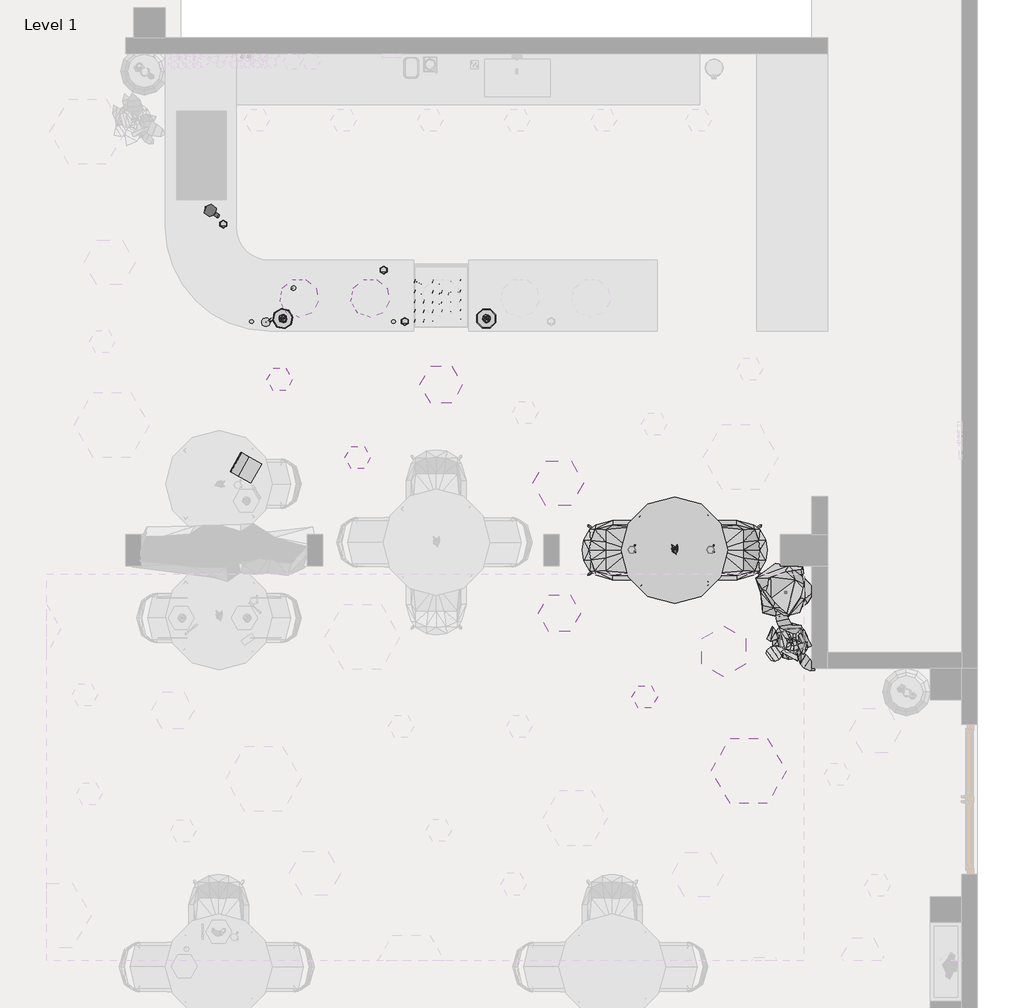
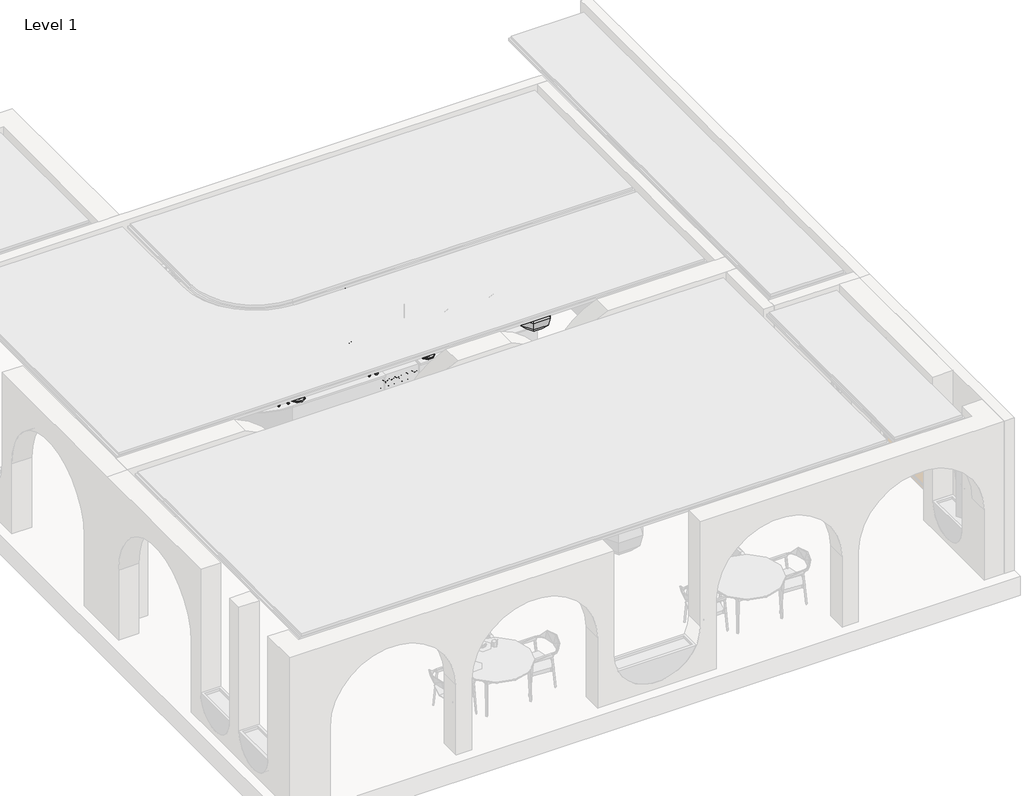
# One storey, part 4 of 5: 107 geographic elements.
"""IFC4 building model written with IfcOpenShell, lengths in millimetres."""

from ifc_helpers import new_model, si_unit, origin, place, context, project, spatial, transform, mapped, element, save
from components import geographic_element_8ca766f1, geographic_element_748f541f, geographic_element_da99fc47, geographic_element_7c99d2c4, geographic_element_02b0aeb2, geographic_element_ad5755f3, geographic_element_e5fee6ec, geographic_element_8a26e685, enscape_assetdefinition_armchair_052_outdoor_enscape_f294b56b, enscape_assetdefinition_armchair_052_outdoor_enscape_d5c26a59, enscape_assetdefinition_basket_004_enscape_assetdefinition_14d161dd, enscape_assetdefinition_cup_002_coffee_enscape_aa947409, enscape_assetdefinition_cup_004_espresso_enscape_9e3265cb, enscape_assetdefinition_cup_009_paper_big_enscape_90dbc6f4, enscape_assetdefinition_floor_lamp_016_enscape_4e544922, enscape_assetdefinition_floor_lamp_016_enscape_5eb83b77, enscape_assetdefinition_floor_lamp_016_enscape_559c5179, enscape_assetdefinition_floor_lamp_016_enscape_838fbf4e, enscape_assetdefinition_glas_010_cocktail_enscape_a5b9dfca, enscape_assetdefinition_glass_002_cocktail_enscape_3d217cfa, enscape_assetdefinition_pendant_lamp_001_enscape_e6839370, enscape_assetdefinition_plate_006_enscape_assetdefinition_0bcb7aa0, enscape_assetdefinition_tablet_006_enscape_assetdefinition_a1b86c75, enscape_assetdefinition_vase_048_paper_palm_enscape_02403a3f

model = new_model("IFC4")

# Units and contexts
model_context = context("Model", 3, world=origin())
ifc_project = project(units=[si_unit("LENGTHUNIT", "METRE", prefix="MILLI")], contexts=[model_context])

# Site, building, storey
site = spatial("IfcSite", under=ifc_project)
building = spatial("IfcBuilding", under=site)
storey = spatial("IfcBuildingStorey", under=building, Name="Level 1", Elevation=0.0)

# Geographic elements
placement = place(None, origin())
geographic_element_shape = geographic_element_8ca766f1(model_context)
element("IfcGeographicElement", 1, ObjectType="Enscape AssetDefinition - Food 027 Pastry : Enscape AssetDefinition - Food 027 Pastry", at=placement, inside=storey, context=model_context, shape_type="MappedRepresentation", body=[
    mapped(geographic_element_shape, transform((18942.6576528, 5907.431033, 793.9806418), x_axis=(-1.0, 0.0, 0.0), y_axis=(0.0, -0.982281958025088, -0.18740905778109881), z_axis=(0.0, -0.18740905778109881, 0.982281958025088))),
])
element("IfcGeographicElement", 2, ObjectType="Enscape AssetDefinition - Food 027 Pastry : Enscape AssetDefinition - Food 027 Pastry", at=placement, inside=storey, context=model_context, shape_type="MappedRepresentation", body=[
    mapped(geographic_element_shape, transform((19057.6576528, 5907.431033, 793.9806418), x_axis=(-1.0, 0.0, 0.0), y_axis=(0.0, -0.982281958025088, -0.18740905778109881), z_axis=(0.0, -0.18740905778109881, 0.982281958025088))),
])
element("IfcGeographicElement", 3, ObjectType="Enscape AssetDefinition - Food 027 Pastry : Enscape AssetDefinition - Food 027 Pastry", at=placement, inside=storey, context=model_context, shape_type="MappedRepresentation", body=[
    mapped(geographic_element_shape, transform((19172.6576528, 5907.431033, 793.9806418), x_axis=(-1.0, 0.0, 0.0), y_axis=(0.0, -0.982281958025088, -0.18740905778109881), z_axis=(0.0, -0.18740905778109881, 0.982281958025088))),
])
element("IfcGeographicElement", 4, ObjectType="Enscape AssetDefinition - Food 027 Pastry : Enscape AssetDefinition - Food 027 Pastry", at=placement, inside=storey, context=model_context, shape_type="MappedRepresentation", body=[
    mapped(geographic_element_shape, transform((19287.6576528, 5907.431033, 793.9806418), x_axis=(-1.0, 0.0, 0.0), y_axis=(0.0, -0.982281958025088, -0.18740905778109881), z_axis=(0.0, -0.18740905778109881, 0.982281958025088))),
])
element("IfcGeographicElement", 5, ObjectType="Enscape AssetDefinition - Food 027 Pastry : Enscape AssetDefinition - Food 027 Pastry", at=placement, inside=storey, context=model_context, shape_type="MappedRepresentation", body=[
    mapped(geographic_element_shape, transform((19402.6576528, 5907.431033, 793.9806418), x_axis=(-1.0, 0.0, 0.0), y_axis=(0.0, -0.982281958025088, -0.18740905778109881), z_axis=(0.0, -0.18740905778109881, 0.982281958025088))),
])
element("IfcGeographicElement", 6, ObjectType="Enscape AssetDefinition - Food 027 Pastry : Enscape AssetDefinition - Food 027 Pastry", at=placement, inside=storey, context=model_context, shape_type="MappedRepresentation", body=[
    mapped(geographic_element_shape, transform((19517.6576528, 5907.431033, 793.9806418), x_axis=(-1.0, 0.0, 0.0), y_axis=(0.0, -0.982281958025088, -0.18740905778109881), z_axis=(0.0, -0.18740905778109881, 0.982281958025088))),
])
element("IfcGeographicElement", 7, ObjectType="Enscape AssetDefinition - Food 027 Pastry : Enscape AssetDefinition - Food 027 Pastry", at=placement, inside=storey, context=model_context, shape_type="MappedRepresentation", body=[
    mapped(geographic_element_shape, transform((18942.6576528, 6030.8722582, 817.5319282), x_axis=(-1.0, 0.0, 0.0), y_axis=(0.0, -0.982281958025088, -0.18740905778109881), z_axis=(0.0, -0.18740905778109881, 0.982281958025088))),
])
element("IfcGeographicElement", 8, ObjectType="Enscape AssetDefinition - Food 027 Pastry : Enscape AssetDefinition - Food 027 Pastry", at=placement, inside=storey, context=model_context, shape_type="MappedRepresentation", body=[
    mapped(geographic_element_shape, transform((18942.6576528, 6152.0675491, 840.654714), x_axis=(-1.0, 0.0, 0.0), y_axis=(0.0, -0.982281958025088, -0.18740905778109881), z_axis=(0.0, -0.18740905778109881, 0.982281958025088))),
])
element("IfcGeographicElement", 9, ObjectType="Enscape AssetDefinition - Food 027 Pastry : Enscape AssetDefinition - Food 027 Pastry", at=placement, inside=storey, context=model_context, shape_type="MappedRepresentation", body=[
    mapped(geographic_element_shape, transform((18942.6576528, 6278.0676886, 864.6942143), x_axis=(-1.0, 0.0, 0.0), y_axis=(0.0, -0.982281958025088, -0.18740905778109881), z_axis=(0.0, -0.18740905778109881, 0.982281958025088))),
])
element("IfcGeographicElement", 10, ObjectType="Enscape AssetDefinition - Food 027 Pastry : Enscape AssetDefinition - Food 027 Pastry", at=placement, inside=storey, context=model_context, shape_type="MappedRepresentation", body=[
    mapped(geographic_element_shape, transform((18942.6576528, 6409.383193, 889.7478303), x_axis=(-1.0, 0.0, 0.0), y_axis=(0.0, -0.982281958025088, -0.18740905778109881), z_axis=(0.0, -0.18740905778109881, 0.982281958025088))),
])
element("IfcGeographicElement", 11, ObjectType="Enscape AssetDefinition - Food 027 Pastry : Enscape AssetDefinition - Food 027 Pastry", at=placement, inside=storey, context=model_context, shape_type="MappedRepresentation", body=[
    mapped(geographic_element_shape, transform((19057.6576528, 6030.8722582, 817.5319282), x_axis=(-1.0, 0.0, 0.0), y_axis=(0.0, -0.982281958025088, -0.18740905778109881), z_axis=(0.0, -0.18740905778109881, 0.982281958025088))),
])
element("IfcGeographicElement", 12, ObjectType="Enscape AssetDefinition - Food 027 Pastry : Enscape AssetDefinition - Food 027 Pastry", at=placement, inside=storey, context=model_context, shape_type="MappedRepresentation", body=[
    mapped(geographic_element_shape, transform((19057.6576528, 6152.0675491, 840.654714), x_axis=(-1.0, 0.0, 0.0), y_axis=(0.0, -0.982281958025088, -0.18740905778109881), z_axis=(0.0, -0.18740905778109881, 0.982281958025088))),
])
element("IfcGeographicElement", 13, ObjectType="Enscape AssetDefinition - Food 027 Pastry : Enscape AssetDefinition - Food 027 Pastry", at=placement, inside=storey, context=model_context, shape_type="MappedRepresentation", body=[
    mapped(geographic_element_shape, transform((19172.6576528, 6030.8722582, 817.5319282), x_axis=(-1.0, 0.0, 0.0), y_axis=(0.0, -0.982281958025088, -0.18740905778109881), z_axis=(0.0, -0.18740905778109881, 0.982281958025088))),
])
element("IfcGeographicElement", 14, ObjectType="Enscape AssetDefinition - Food 027 Pastry : Enscape AssetDefinition - Food 027 Pastry", at=placement, inside=storey, context=model_context, shape_type="MappedRepresentation", body=[
    mapped(geographic_element_shape, transform((19172.6576528, 6152.0675491, 840.654714), x_axis=(-1.0, 0.0, 0.0), y_axis=(0.0, -0.982281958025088, -0.18740905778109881), z_axis=(0.0, -0.18740905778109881, 0.982281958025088))),
])
element("IfcGeographicElement", 15, ObjectType="Enscape AssetDefinition - Food 027 Pastry : Enscape AssetDefinition - Food 027 Pastry", at=placement, inside=storey, context=model_context, shape_type="MappedRepresentation", body=[
    mapped(geographic_element_shape, transform((19172.6576528, 6278.0676886, 864.6942143), x_axis=(-1.0, 0.0, 0.0), y_axis=(0.0, -0.982281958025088, -0.18740905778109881), z_axis=(0.0, -0.18740905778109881, 0.982281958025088))),
])
element("IfcGeographicElement", 16, ObjectType="Enscape AssetDefinition - Food 027 Pastry : Enscape AssetDefinition - Food 027 Pastry", at=placement, inside=storey, context=model_context, shape_type="MappedRepresentation", body=[
    mapped(geographic_element_shape, transform((19172.6576528, 6409.383193, 889.7478303), x_axis=(-1.0, 0.0, 0.0), y_axis=(0.0, -0.982281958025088, -0.18740905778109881), z_axis=(0.0, -0.18740905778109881, 0.982281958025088))),
])
element("IfcGeographicElement", 17, ObjectType="Enscape AssetDefinition - Food 027 Pastry : Enscape AssetDefinition - Food 027 Pastry", at=placement, inside=storey, context=model_context, shape_type="MappedRepresentation", body=[
    mapped(geographic_element_shape, transform((19287.6576528, 6030.8722582, 817.5319282), x_axis=(-1.0, 0.0, 0.0), y_axis=(0.0, -0.982281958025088, -0.18740905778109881), z_axis=(0.0, -0.18740905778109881, 0.982281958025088))),
])
element("IfcGeographicElement", 18, ObjectType="Enscape AssetDefinition - Food 027 Pastry : Enscape AssetDefinition - Food 027 Pastry", at=placement, inside=storey, context=model_context, shape_type="MappedRepresentation", body=[
    mapped(geographic_element_shape, transform((19287.6576528, 6152.0675491, 840.654714), x_axis=(-1.0, 0.0, 0.0), y_axis=(0.0, -0.982281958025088, -0.18740905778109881), z_axis=(0.0, -0.18740905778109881, 0.982281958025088))),
])
element("IfcGeographicElement", 19, ObjectType="Enscape AssetDefinition - Food 027 Pastry : Enscape AssetDefinition - Food 027 Pastry", at=placement, inside=storey, context=model_context, shape_type="MappedRepresentation", body=[
    mapped(geographic_element_shape, transform((19287.6576528, 6278.0676886, 864.6942143), x_axis=(-1.0, 0.0, 0.0), y_axis=(0.0, -0.982281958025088, -0.18740905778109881), z_axis=(0.0, -0.18740905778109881, 0.982281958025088))),
])
element("IfcGeographicElement", 20, ObjectType="Enscape AssetDefinition - Food 027 Pastry : Enscape AssetDefinition - Food 027 Pastry", at=placement, inside=storey, context=model_context, shape_type="MappedRepresentation", body=[
    mapped(geographic_element_shape, transform((19402.6576528, 6030.8722582, 817.5319282), x_axis=(-1.0, 0.0, 0.0), y_axis=(0.0, -0.982281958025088, -0.18740905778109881), z_axis=(0.0, -0.18740905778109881, 0.982281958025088))),
])
element("IfcGeographicElement", 21, ObjectType="Enscape AssetDefinition - Food 027 Pastry : Enscape AssetDefinition - Food 027 Pastry", at=placement, inside=storey, context=model_context, shape_type="MappedRepresentation", body=[
    mapped(geographic_element_shape, transform((19402.6576528, 6152.0675491, 840.654714), x_axis=(-1.0, 0.0, 0.0), y_axis=(0.0, -0.982281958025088, -0.18740905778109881), z_axis=(0.0, -0.18740905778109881, 0.982281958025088))),
])
element("IfcGeographicElement", 22, ObjectType="Enscape AssetDefinition - Food 027 Pastry : Enscape AssetDefinition - Food 027 Pastry", at=placement, inside=storey, context=model_context, shape_type="MappedRepresentation", body=[
    mapped(geographic_element_shape, transform((19402.6576528, 6278.0676886, 864.6942143), x_axis=(-1.0, 0.0, 0.0), y_axis=(0.0, -0.982281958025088, -0.18740905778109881), z_axis=(0.0, -0.18740905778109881, 0.982281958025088))),
])
element("IfcGeographicElement", 23, ObjectType="Enscape AssetDefinition - Food 027 Pastry : Enscape AssetDefinition - Food 027 Pastry", at=placement, inside=storey, context=model_context, shape_type="MappedRepresentation", body=[
    mapped(geographic_element_shape, transform((19402.6576528, 6409.383193, 889.7478303), x_axis=(-1.0, 0.0, 0.0), y_axis=(0.0, -0.982281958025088, -0.18740905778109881), z_axis=(0.0, -0.18740905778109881, 0.982281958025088))),
])
element("IfcGeographicElement", 24, ObjectType="Enscape AssetDefinition - Food 027 Pastry : Enscape AssetDefinition - Food 027 Pastry", at=placement, inside=storey, context=model_context, shape_type="MappedRepresentation", body=[
    mapped(geographic_element_shape, transform((19517.6576528, 6030.8722582, 817.5319282), x_axis=(-1.0, 0.0, 0.0), y_axis=(0.0, -0.982281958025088, -0.18740905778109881), z_axis=(0.0, -0.18740905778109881, 0.982281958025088))),
])
element("IfcGeographicElement", 25, ObjectType="Enscape AssetDefinition - Food 027 Pastry : Enscape AssetDefinition - Food 027 Pastry", at=placement, inside=storey, context=model_context, shape_type="MappedRepresentation", body=[
    mapped(geographic_element_shape, transform((19517.6576528, 6152.0675491, 840.654714), x_axis=(-1.0, 0.0, 0.0), y_axis=(0.0, -0.982281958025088, -0.18740905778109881), z_axis=(0.0, -0.18740905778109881, 0.982281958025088))),
])
element("IfcGeographicElement", 26, ObjectType="Enscape AssetDefinition - Food 027 Pastry : Enscape AssetDefinition - Food 027 Pastry", at=placement, inside=storey, context=model_context, shape_type="MappedRepresentation", body=[
    mapped(geographic_element_shape, transform((19517.6576528, 6278.0676886, 864.6942143), x_axis=(-1.0, 0.0, 0.0), y_axis=(0.0, -0.982281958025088, -0.18740905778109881), z_axis=(0.0, -0.18740905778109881, 0.982281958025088))),
])
element("IfcGeographicElement", 27, ObjectType="Enscape AssetDefinition - Food 027 Pastry : Enscape AssetDefinition - Food 027 Pastry", at=placement, inside=storey, context=model_context, shape_type="MappedRepresentation", body=[
    mapped(geographic_element_shape, transform((19517.6576528, 6409.383193, 889.7478303), x_axis=(-1.0, 0.0, 0.0), y_axis=(0.0, -0.982281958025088, -0.18740905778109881), z_axis=(0.0, -0.18740905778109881, 0.982281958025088))),
])
element("IfcGeographicElement", 28, ObjectType="Enscape AssetDefinition - Food 027 Pastry : Enscape AssetDefinition - Food 027 Pastry", at=placement, inside=storey, context=model_context, shape_type="MappedRepresentation", body=[
    mapped(geographic_element_shape, transform((19808.0052196, 5948.148398, 992.5), x_axis=(1.0, 0.0, 0.0), y_axis=(0.0, 1.0, 0.0), z_axis=(0.0, 0.0, 1.0))),
])
element("IfcGeographicElement", 29, ObjectType="Enscape AssetDefinition - Food 027 Pastry : Enscape AssetDefinition - Food 027 Pastry", at=placement, inside=storey, context=model_context, shape_type="MappedRepresentation", body=[
    mapped(geographic_element_shape, transform((17227.9957013, 5948.1805311, 992.5), x_axis=(0.8386705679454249, 0.5446390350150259, 0.0), y_axis=(-0.5446390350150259, 0.8386705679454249, 0.0), z_axis=(0.0, 0.0, 1.0))),
])
geographic_element_2_shape = geographic_element_748f541f(model_context)
element("IfcGeographicElement", 30, ObjectType="Enscape AssetDefinition - Food 024 Pastry : Enscape AssetDefinition - Food 024 Pastry", at=placement, inside=storey, context=model_context, shape_type="MappedRepresentation", body=[
    mapped(geographic_element_2_shape, transform((18976.44141, 5913.2536582, 650.0915374), x_axis=(-1.0, 0.0, 0.0), y_axis=(0.0, -0.982281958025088, -0.1874090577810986), z_axis=(0.0, -0.1874090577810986, 0.982281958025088))),
])
element("IfcGeographicElement", 31, ObjectType="Enscape AssetDefinition - Food 024 Pastry : Enscape AssetDefinition - Food 024 Pastry", at=placement, inside=storey, context=model_context, shape_type="MappedRepresentation", body=[
    mapped(geographic_element_2_shape, transform((19148.94141, 5913.2536582, 650.0915374), x_axis=(-1.0, 0.0, 0.0), y_axis=(0.0, -0.982281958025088, -0.1874090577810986), z_axis=(0.0, -0.1874090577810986, 0.982281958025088))),
])
element("IfcGeographicElement", 32, ObjectType="Enscape AssetDefinition - Food 024 Pastry : Enscape AssetDefinition - Food 024 Pastry", at=placement, inside=storey, context=model_context, shape_type="MappedRepresentation", body=[
    mapped(geographic_element_2_shape, transform((19323.94141, 5913.2536582, 650.0915374), x_axis=(-1.0, 0.0, 0.0), y_axis=(0.0, -0.982281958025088, -0.1874090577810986), z_axis=(0.0, -0.1874090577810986, 0.982281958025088))),
])
element("IfcGeographicElement", 33, ObjectType="Enscape AssetDefinition - Food 024 Pastry : Enscape AssetDefinition - Food 024 Pastry", at=placement, inside=storey, context=model_context, shape_type="MappedRepresentation", body=[
    mapped(geographic_element_2_shape, transform((19498.94141, 5913.2536582, 650.0915374), x_axis=(-1.0, 0.0, 0.0), y_axis=(0.0, -0.982281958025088, -0.1874090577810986), z_axis=(0.0, -0.1874090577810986, 0.982281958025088))),
])
element("IfcGeographicElement", 34, ObjectType="Enscape AssetDefinition - Food 024 Pastry : Enscape AssetDefinition - Food 024 Pastry", at=placement, inside=storey, context=model_context, shape_type="MappedRepresentation", body=[
    mapped(geographic_element_2_shape, transform((18975.0818232, 6068.7677812, 679.7619951), x_axis=(-1.0, 0.0, 0.0), y_axis=(0.0, -0.982281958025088, -0.1874090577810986), z_axis=(0.0, -0.1874090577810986, 0.982281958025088))),
])
element("IfcGeographicElement", 35, ObjectType="Enscape AssetDefinition - Food 024 Pastry : Enscape AssetDefinition - Food 024 Pastry", at=placement, inside=storey, context=model_context, shape_type="MappedRepresentation", body=[
    mapped(geographic_element_2_shape, transform((18970.4284807, 6213.2653472, 707.3306097), x_axis=(-1.0, 0.0, 0.0), y_axis=(0.0, -0.982281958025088, -0.1874090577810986), z_axis=(0.0, -0.1874090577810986, 0.982281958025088))),
])
element("IfcGeographicElement", 36, ObjectType="Enscape AssetDefinition - Food 024 Pastry : Enscape AssetDefinition - Food 024 Pastry", at=placement, inside=storey, context=model_context, shape_type="MappedRepresentation", body=[
    mapped(geographic_element_2_shape, transform((19150.0818232, 6068.7677812, 679.7619951), x_axis=(-1.0, 0.0, 0.0), y_axis=(0.0, -0.982281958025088, -0.1874090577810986), z_axis=(0.0, -0.1874090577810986, 0.982281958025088))),
])
element("IfcGeographicElement", 37, ObjectType="Enscape AssetDefinition - Food 024 Pastry : Enscape AssetDefinition - Food 024 Pastry", at=placement, inside=storey, context=model_context, shape_type="MappedRepresentation", body=[
    mapped(geographic_element_2_shape, transform((19145.4284807, 6213.2653472, 707.3306097), x_axis=(-1.0, 0.0, 0.0), y_axis=(0.0, -0.982281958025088, -0.1874090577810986), z_axis=(0.0, -0.1874090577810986, 0.982281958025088))),
])
element("IfcGeographicElement", 38, ObjectType="Enscape AssetDefinition - Food 024 Pastry : Enscape AssetDefinition - Food 024 Pastry", at=placement, inside=storey, context=model_context, shape_type="MappedRepresentation", body=[
    mapped(geographic_element_2_shape, transform((19320.0818232, 6068.7677812, 679.7619951), x_axis=(-1.0, 0.0, 0.0), y_axis=(0.0, -0.982281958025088, -0.1874090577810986), z_axis=(0.0, -0.1874090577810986, 0.982281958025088))),
])
element("IfcGeographicElement", 39, ObjectType="Enscape AssetDefinition - Food 024 Pastry : Enscape AssetDefinition - Food 024 Pastry", at=placement, inside=storey, context=model_context, shape_type="MappedRepresentation", body=[
    mapped(geographic_element_2_shape, transform((19315.4284807, 6213.2653472, 707.3306097), x_axis=(-1.0, 0.0, 0.0), y_axis=(0.0, -0.982281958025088, -0.1874090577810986), z_axis=(0.0, -0.1874090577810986, 0.982281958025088))),
])
element("IfcGeographicElement", 40, ObjectType="Enscape AssetDefinition - Food 024 Pastry : Enscape AssetDefinition - Food 024 Pastry", at=placement, inside=storey, context=model_context, shape_type="MappedRepresentation", body=[
    mapped(geographic_element_2_shape, transform((19495.0818232, 6068.7677812, 679.7619951), x_axis=(-1.0, 0.0, 0.0), y_axis=(0.0, -0.982281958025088, -0.1874090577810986), z_axis=(0.0, -0.1874090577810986, 0.982281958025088))),
])
element("IfcGeographicElement", 41, ObjectType="Enscape AssetDefinition - Food 024 Pastry : Enscape AssetDefinition - Food 024 Pastry", at=placement, inside=storey, context=model_context, shape_type="MappedRepresentation", body=[
    mapped(geographic_element_2_shape, transform((19490.4284807, 6213.2653472, 707.3306097), x_axis=(-1.0, 0.0, 0.0), y_axis=(0.0, -0.982281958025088, -0.1874090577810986), z_axis=(0.0, -0.1874090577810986, 0.982281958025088))),
])
geographic_element_3_shape = geographic_element_da99fc47(model_context)
element("IfcGeographicElement", 42, ObjectType="Enscape AssetDefinition - Food 022 Pastry : Enscape AssetDefinition - Food 022 Pastry", at=placement, inside=storey, context=model_context, shape_type="MappedRepresentation", body=[
    mapped(geographic_element_3_shape, transform((18965.1576528, 5900.2760798, 502.6155521), x_axis=(-1.0, 0.0, 0.0), y_axis=(0.0, -0.9822819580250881, -0.18740905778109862), z_axis=(0.0, -0.18740905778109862, 0.9822819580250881))),
])
element("IfcGeographicElement", 43, ObjectType="Enscape AssetDefinition - Food 022 Pastry : Enscape AssetDefinition - Food 022 Pastry", at=placement, inside=storey, context=model_context, shape_type="MappedRepresentation", body=[
    mapped(geographic_element_3_shape, transform((18965.1576528, 6142.2128437, 548.7745399), x_axis=(-1.0, 0.0, 0.0), y_axis=(0.0, -0.9822819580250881, -0.18740905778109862), z_axis=(0.0, -0.18740905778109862, 0.9822819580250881))),
])
element("IfcGeographicElement", 44, ObjectType="Enscape AssetDefinition - Food 022 Pastry : Enscape AssetDefinition - Food 022 Pastry", at=placement, inside=storey, context=model_context, shape_type="MappedRepresentation", body=[
    mapped(geographic_element_3_shape, transform((18965.1576528, 6062.1508272, 533.49955), x_axis=(-1.0, 0.0, 0.0), y_axis=(0.0, -0.9822819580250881, -0.18740905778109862), z_axis=(0.0, -0.18740905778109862, 0.9822819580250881))),
])
element("IfcGeographicElement", 45, ObjectType="Enscape AssetDefinition - Food 022 Pastry : Enscape AssetDefinition - Food 022 Pastry", at=placement, inside=storey, context=model_context, shape_type="MappedRepresentation", body=[
    mapped(geographic_element_3_shape, transform((18965.1576528, 5980.6326387, 517.9467377), x_axis=(-1.0, 0.0, 0.0), y_axis=(0.0, -0.9822819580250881, -0.18740905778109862), z_axis=(0.0, -0.18740905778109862, 0.9822819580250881))),
])
element("IfcGeographicElement", 46, ObjectType="Enscape AssetDefinition - Food 022 Pastry : Enscape AssetDefinition - Food 022 Pastry", at=placement, inside=storey, context=model_context, shape_type="MappedRepresentation", body=[
    mapped(geographic_element_3_shape, transform((18965.1689379, 6226.4243187, 564.8412029), x_axis=(-1.0, 0.0, 0.0), y_axis=(0.0, -0.9822819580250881, -0.18740905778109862), z_axis=(0.0, -0.18740905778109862, 0.9822819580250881))),
])
element("IfcGeographicElement", 47, ObjectType="Enscape AssetDefinition - Food 022 Pastry : Enscape AssetDefinition - Food 022 Pastry", at=placement, inside=storey, context=model_context, shape_type="MappedRepresentation", body=[
    mapped(geographic_element_3_shape, transform((18966.0066809, 6315.630467, 581.860797), x_axis=(-1.0, 0.0, 0.0), y_axis=(0.0, -0.9822819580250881, -0.18740905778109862), z_axis=(0.0, -0.18740905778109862, 0.9822819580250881))),
])
element("IfcGeographicElement", 48, ObjectType="Enscape AssetDefinition - Food 022 Pastry : Enscape AssetDefinition - Food 022 Pastry", at=placement, inside=storey, context=model_context, shape_type="MappedRepresentation", body=[
    mapped(geographic_element_3_shape, transform((19100.1576528, 5900.2760798, 502.6155521), x_axis=(-1.0, 0.0, 0.0), y_axis=(0.0, -0.9822819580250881, -0.18740905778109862), z_axis=(0.0, -0.18740905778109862, 0.9822819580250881))),
])
element("IfcGeographicElement", 49, ObjectType="Enscape AssetDefinition - Food 022 Pastry : Enscape AssetDefinition - Food 022 Pastry", at=placement, inside=storey, context=model_context, shape_type="MappedRepresentation", body=[
    mapped(geographic_element_3_shape, transform((19100.1576528, 6142.2128437, 548.7745399), x_axis=(-1.0, 0.0, 0.0), y_axis=(0.0, -0.9822819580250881, -0.18740905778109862), z_axis=(0.0, -0.18740905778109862, 0.9822819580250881))),
])
element("IfcGeographicElement", 50, ObjectType="Enscape AssetDefinition - Food 022 Pastry : Enscape AssetDefinition - Food 022 Pastry", at=placement, inside=storey, context=model_context, shape_type="MappedRepresentation", body=[
    mapped(geographic_element_3_shape, transform((19100.1576528, 6062.1508272, 533.49955), x_axis=(-1.0, 0.0, 0.0), y_axis=(0.0, -0.9822819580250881, -0.18740905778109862), z_axis=(0.0, -0.18740905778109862, 0.9822819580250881))),
])
element("IfcGeographicElement", 51, ObjectType="Enscape AssetDefinition - Food 022 Pastry : Enscape AssetDefinition - Food 022 Pastry", at=placement, inside=storey, context=model_context, shape_type="MappedRepresentation", body=[
    mapped(geographic_element_3_shape, transform((19100.1576528, 5980.6326387, 517.9467377), x_axis=(-1.0, 0.0, 0.0), y_axis=(0.0, -0.9822819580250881, -0.18740905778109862), z_axis=(0.0, -0.18740905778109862, 0.9822819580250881))),
])
element("IfcGeographicElement", 52, ObjectType="Enscape AssetDefinition - Food 022 Pastry : Enscape AssetDefinition - Food 022 Pastry", at=placement, inside=storey, context=model_context, shape_type="MappedRepresentation", body=[
    mapped(geographic_element_3_shape, transform((19100.1689379, 6226.4243187, 564.8412029), x_axis=(-1.0, 0.0, 0.0), y_axis=(0.0, -0.9822819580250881, -0.18740905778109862), z_axis=(0.0, -0.18740905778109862, 0.9822819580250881))),
])
element("IfcGeographicElement", 53, ObjectType="Enscape AssetDefinition - Food 022 Pastry : Enscape AssetDefinition - Food 022 Pastry", at=placement, inside=storey, context=model_context, shape_type="MappedRepresentation", body=[
    mapped(geographic_element_3_shape, transform((19101.0066809, 6315.630467, 581.860797), x_axis=(-1.0, 0.0, 0.0), y_axis=(0.0, -0.9822819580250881, -0.18740905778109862), z_axis=(0.0, -0.18740905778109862, 0.9822819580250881))),
])
element("IfcGeographicElement", 54, ObjectType="Enscape AssetDefinition - Food 022 Pastry : Enscape AssetDefinition - Food 022 Pastry", at=placement, inside=storey, context=model_context, shape_type="MappedRepresentation", body=[
    mapped(geographic_element_3_shape, transform((19235.1576528, 5900.2760798, 502.6155521), x_axis=(-1.0, 0.0, 0.0), y_axis=(0.0, -0.9822819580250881, -0.18740905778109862), z_axis=(0.0, -0.18740905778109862, 0.9822819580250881))),
])
element("IfcGeographicElement", 55, ObjectType="Enscape AssetDefinition - Food 022 Pastry : Enscape AssetDefinition - Food 022 Pastry", at=placement, inside=storey, context=model_context, shape_type="MappedRepresentation", body=[
    mapped(geographic_element_3_shape, transform((19235.1576528, 6142.2128437, 548.7745399), x_axis=(-1.0, 0.0, 0.0), y_axis=(0.0, -0.9822819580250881, -0.18740905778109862), z_axis=(0.0, -0.18740905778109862, 0.9822819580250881))),
])
element("IfcGeographicElement", 56, ObjectType="Enscape AssetDefinition - Food 022 Pastry : Enscape AssetDefinition - Food 022 Pastry", at=placement, inside=storey, context=model_context, shape_type="MappedRepresentation", body=[
    mapped(geographic_element_3_shape, transform((19235.1576528, 6062.1508272, 533.49955), x_axis=(-1.0, 0.0, 0.0), y_axis=(0.0, -0.9822819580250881, -0.18740905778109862), z_axis=(0.0, -0.18740905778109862, 0.9822819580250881))),
])
element("IfcGeographicElement", 57, ObjectType="Enscape AssetDefinition - Food 022 Pastry : Enscape AssetDefinition - Food 022 Pastry", at=placement, inside=storey, context=model_context, shape_type="MappedRepresentation", body=[
    mapped(geographic_element_3_shape, transform((19235.1576528, 5980.6326387, 517.9467377), x_axis=(-1.0, 0.0, 0.0), y_axis=(0.0, -0.9822819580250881, -0.18740905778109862), z_axis=(0.0, -0.18740905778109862, 0.9822819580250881))),
])
element("IfcGeographicElement", 58, ObjectType="Enscape AssetDefinition - Food 022 Pastry : Enscape AssetDefinition - Food 022 Pastry", at=placement, inside=storey, context=model_context, shape_type="MappedRepresentation", body=[
    mapped(geographic_element_3_shape, transform((19235.1689379, 6226.4243187, 564.8412029), x_axis=(-1.0, 0.0, 0.0), y_axis=(0.0, -0.9822819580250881, -0.18740905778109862), z_axis=(0.0, -0.18740905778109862, 0.9822819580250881))),
])
element("IfcGeographicElement", 59, ObjectType="Enscape AssetDefinition - Food 022 Pastry : Enscape AssetDefinition - Food 022 Pastry", at=placement, inside=storey, context=model_context, shape_type="MappedRepresentation", body=[
    mapped(geographic_element_3_shape, transform((19236.0066809, 6315.630467, 581.860797), x_axis=(-1.0, 0.0, 0.0), y_axis=(0.0, -0.9822819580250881, -0.18740905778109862), z_axis=(0.0, -0.18740905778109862, 0.9822819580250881))),
])
element("IfcGeographicElement", 60, ObjectType="Enscape AssetDefinition - Food 022 Pastry : Enscape AssetDefinition - Food 022 Pastry", at=placement, inside=storey, context=model_context, shape_type="MappedRepresentation", body=[
    mapped(geographic_element_3_shape, transform((19370.1576528, 5900.2760798, 502.6155521), x_axis=(-1.0, 0.0, 0.0), y_axis=(0.0, -0.9822819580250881, -0.18740905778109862), z_axis=(0.0, -0.18740905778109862, 0.9822819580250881))),
])
element("IfcGeographicElement", 61, ObjectType="Enscape AssetDefinition - Food 022 Pastry : Enscape AssetDefinition - Food 022 Pastry", at=placement, inside=storey, context=model_context, shape_type="MappedRepresentation", body=[
    mapped(geographic_element_3_shape, transform((19370.1576528, 6142.2128437, 548.7745399), x_axis=(-1.0, 0.0, 0.0), y_axis=(0.0, -0.9822819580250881, -0.18740905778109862), z_axis=(0.0, -0.18740905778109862, 0.9822819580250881))),
])
element("IfcGeographicElement", 62, ObjectType="Enscape AssetDefinition - Food 022 Pastry : Enscape AssetDefinition - Food 022 Pastry", at=placement, inside=storey, context=model_context, shape_type="MappedRepresentation", body=[
    mapped(geographic_element_3_shape, transform((19370.1576528, 6062.1508272, 533.49955), x_axis=(-1.0, 0.0, 0.0), y_axis=(0.0, -0.9822819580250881, -0.18740905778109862), z_axis=(0.0, -0.18740905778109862, 0.9822819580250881))),
])
element("IfcGeographicElement", 63, ObjectType="Enscape AssetDefinition - Food 022 Pastry : Enscape AssetDefinition - Food 022 Pastry", at=placement, inside=storey, context=model_context, shape_type="MappedRepresentation", body=[
    mapped(geographic_element_3_shape, transform((19370.1576528, 5980.6326387, 517.9467377), x_axis=(-1.0, 0.0, 0.0), y_axis=(0.0, -0.9822819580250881, -0.18740905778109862), z_axis=(0.0, -0.18740905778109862, 0.9822819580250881))),
])
element("IfcGeographicElement", 64, ObjectType="Enscape AssetDefinition - Food 022 Pastry : Enscape AssetDefinition - Food 022 Pastry", at=placement, inside=storey, context=model_context, shape_type="MappedRepresentation", body=[
    mapped(geographic_element_3_shape, transform((19370.1689379, 6226.4243187, 564.8412029), x_axis=(-1.0, 0.0, 0.0), y_axis=(0.0, -0.9822819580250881, -0.18740905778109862), z_axis=(0.0, -0.18740905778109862, 0.9822819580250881))),
])
element("IfcGeographicElement", 65, ObjectType="Enscape AssetDefinition - Food 022 Pastry : Enscape AssetDefinition - Food 022 Pastry", at=placement, inside=storey, context=model_context, shape_type="MappedRepresentation", body=[
    mapped(geographic_element_3_shape, transform((19371.0066809, 6315.630467, 581.860797), x_axis=(-1.0, 0.0, 0.0), y_axis=(0.0, -0.9822819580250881, -0.18740905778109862), z_axis=(0.0, -0.18740905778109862, 0.9822819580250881))),
])
element("IfcGeographicElement", 66, ObjectType="Enscape AssetDefinition - Food 022 Pastry : Enscape AssetDefinition - Food 022 Pastry", at=placement, inside=storey, context=model_context, shape_type="MappedRepresentation", body=[
    mapped(geographic_element_3_shape, transform((19505.1576528, 5900.2760798, 502.6155521), x_axis=(-1.0, 0.0, 0.0), y_axis=(0.0, -0.9822819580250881, -0.18740905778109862), z_axis=(0.0, -0.18740905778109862, 0.9822819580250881))),
])
element("IfcGeographicElement", 67, ObjectType="Enscape AssetDefinition - Food 022 Pastry : Enscape AssetDefinition - Food 022 Pastry", at=placement, inside=storey, context=model_context, shape_type="MappedRepresentation", body=[
    mapped(geographic_element_3_shape, transform((19505.1576528, 6142.2128437, 548.7745399), x_axis=(-1.0, 0.0, 0.0), y_axis=(0.0, -0.9822819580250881, -0.18740905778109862), z_axis=(0.0, -0.18740905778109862, 0.9822819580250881))),
])
element("IfcGeographicElement", 68, ObjectType="Enscape AssetDefinition - Food 022 Pastry : Enscape AssetDefinition - Food 022 Pastry", at=placement, inside=storey, context=model_context, shape_type="MappedRepresentation", body=[
    mapped(geographic_element_3_shape, transform((19505.1576528, 6062.1508272, 533.49955), x_axis=(-1.0, 0.0, 0.0), y_axis=(0.0, -0.9822819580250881, -0.18740905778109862), z_axis=(0.0, -0.18740905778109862, 0.9822819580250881))),
])
element("IfcGeographicElement", 69, ObjectType="Enscape AssetDefinition - Food 022 Pastry : Enscape AssetDefinition - Food 022 Pastry", at=placement, inside=storey, context=model_context, shape_type="MappedRepresentation", body=[
    mapped(geographic_element_3_shape, transform((19505.1576528, 5980.6326387, 517.9467377), x_axis=(-1.0, 0.0, 0.0), y_axis=(0.0, -0.9822819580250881, -0.18740905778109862), z_axis=(0.0, -0.18740905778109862, 0.9822819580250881))),
])
geographic_element_4_shape = geographic_element_7c99d2c4(model_context)
element("IfcGeographicElement", 70, ObjectType="Enscape AssetDefinition - Food 019 Pastry : Enscape AssetDefinition - Food 019 Pastry", at=placement, inside=storey, context=model_context, shape_type="MappedRepresentation", body=[
    mapped(geographic_element_4_shape, transform((18977.6576528, 5928.4137621, 362.9839257), x_axis=(-1.0, 0.0, 0.0), y_axis=(0.0, -0.982281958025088, -0.18740905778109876), z_axis=(0.0, -0.18740905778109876, 0.982281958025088))),
])
element("IfcGeographicElement", 71, ObjectType="Enscape AssetDefinition - Food 019 Pastry : Enscape AssetDefinition - Food 019 Pastry", at=placement, inside=storey, context=model_context, shape_type="MappedRepresentation", body=[
    mapped(geographic_element_4_shape, transform((18977.0930531, 6257.7496797, 425.8177521), x_axis=(-1.0, 0.0, 0.0), y_axis=(0.0, -0.982281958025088, -0.18740905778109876), z_axis=(0.0, -0.18740905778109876, 0.982281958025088))),
])
element("IfcGeographicElement", 72, ObjectType="Enscape AssetDefinition - Food 019 Pastry : Enscape AssetDefinition - Food 019 Pastry", at=placement, inside=storey, context=model_context, shape_type="MappedRepresentation", body=[
    mapped(geographic_element_4_shape, transform((18978.7440629, 6426.3937052, 457.9932569), x_axis=(-1.0, 0.0, 0.0), y_axis=(0.0, -0.982281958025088, -0.18740905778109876), z_axis=(0.0, -0.18740905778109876, 0.982281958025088))),
])
element("IfcGeographicElement", 73, ObjectType="Enscape AssetDefinition - Food 019 Pastry : Enscape AssetDefinition - Food 019 Pastry", at=placement, inside=storey, context=model_context, shape_type="MappedRepresentation", body=[
    mapped(geographic_element_4_shape, transform((18975.8863829, 6092.9631165, 394.3782104), x_axis=(-1.0, 0.0, 0.0), y_axis=(0.0, -0.982281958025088, -0.18740905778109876), z_axis=(0.0, -0.18740905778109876, 0.982281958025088))),
])
element("IfcGeographicElement", 74, ObjectType="Enscape AssetDefinition - Food 019 Pastry : Enscape AssetDefinition - Food 019 Pastry", at=placement, inside=storey, context=model_context, shape_type="MappedRepresentation", body=[
    mapped(geographic_element_4_shape, transform((19141.4076528, 5928.4137621, 362.9839257), x_axis=(-1.0, 0.0, 0.0), y_axis=(0.0, -0.982281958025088, -0.18740905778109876), z_axis=(0.0, -0.18740905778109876, 0.982281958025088))),
])
element("IfcGeographicElement", 75, ObjectType="Enscape AssetDefinition - Food 019 Pastry : Enscape AssetDefinition - Food 019 Pastry", at=placement, inside=storey, context=model_context, shape_type="MappedRepresentation", body=[
    mapped(geographic_element_4_shape, transform((19305.1576528, 5928.4137621, 362.9839257), x_axis=(-1.0, 0.0, 0.0), y_axis=(0.0, -0.982281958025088, -0.18740905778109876), z_axis=(0.0, -0.18740905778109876, 0.982281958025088))),
])
element("IfcGeographicElement", 76, ObjectType="Enscape AssetDefinition - Food 019 Pastry : Enscape AssetDefinition - Food 019 Pastry", at=placement, inside=storey, context=model_context, shape_type="MappedRepresentation", body=[
    mapped(geographic_element_4_shape, transform((19470.1576528, 5928.4137621, 362.9839257), x_axis=(-1.0, 0.0, 0.0), y_axis=(0.0, -0.982281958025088, -0.18740905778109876), z_axis=(0.0, -0.18740905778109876, 0.982281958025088))),
])
geographic_element_5_shape = geographic_element_02b0aeb2(model_context)
element("IfcGeographicElement", 77, ObjectType="Enscape AssetDefinition - Kitchen Appliance 002 Kettle : Enscape AssetDefinition - Kitchen Appliance 002 Kettle", at=placement, inside=storey, context=model_context, shape_type="MappedRepresentation", body=[
    mapped(geographic_element_5_shape, transform((16307.4815553, 7319.924729, 980.0), x_axis=(0.7986355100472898, -0.6018150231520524, 0.0), y_axis=(0.6018150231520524, 0.7986355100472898, 0.0), z_axis=(0.0, 0.0, 1.0))),
])
geographic_element_6_shape = geographic_element_ad5755f3(model_context)
element("IfcGeographicElement", 78, ObjectType="Enscape AssetDefinition - Ease Round Table : Enscape AssetDefinition - Ease Round Table", at=placement, inside=storey, context=model_context, shape_type="MappedRepresentation", body=[
    mapped(geographic_element_6_shape, transform((22195.5724865, 3010.3600826, 0.0), x_axis=(0.0, 1.0, 0.0), y_axis=(-1.0, 0.0, 0.0), z_axis=(0.0, 0.0, 1.0))),
])
geographic_element_7_shape = geographic_element_e5fee6ec(model_context)
element("IfcGeographicElement", 79, ObjectType="Enscape AssetDefinition - Potted Plant 119 Strelitzia Nicolai : Enscape AssetDefinition - Potted Plant 119 Strelitzia Nicolai", at=placement, inside=storey, context=model_context, shape_type="MappedRepresentation", body=[
    mapped(geographic_element_7_shape, transform((23687.7028775, 1865.4250781, 0.0), x_axis=(-0.32556815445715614, 0.9455185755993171, 0.0), y_axis=(-0.9455185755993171, -0.32556815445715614, 0.0), z_axis=(0.0, 0.0, 1.0))),
])
geographic_element_8_shape = geographic_element_8a26e685(model_context)
element("IfcGeographicElement", 80, ObjectType="Enscape AssetDefinition - Potted Plant 024 Fiddle-Leaf Fig : Enscape AssetDefinition - Potted Plant 024 Fiddle-Leaf Fig 3", at=placement, inside=storey, context=model_context, shape_type="MappedRepresentation", body=[
    mapped(geographic_element_8_shape, transform((23601.7153116, 2478.9737146, 0.0), x_axis=(1.0, 0.0, 0.0), y_axis=(0.0, 1.0, 0.0), z_axis=(0.0, 0.0, 1.0))),
])
enscape_assetdefinition_armchair_052_outdoor_enscape_shape = enscape_assetdefinition_armchair_052_outdoor_enscape_f294b56b(model_context)
element("IfcGeographicElement", 81, ObjectType="Enscape AssetDefinition - Armchair 052 Outdoor : Enscape AssetDefinition - Armchair 052 Outdoor", at=placement, inside=storey, context=model_context, shape_type="MappedRepresentation", body=[
    mapped(enscape_assetdefinition_armchair_052_outdoor_enscape_shape, transform((21519.767516, 3010.3600826, 0.0), x_axis=(0.0, 1.0, 0.0), y_axis=(-1.0, 0.0, 0.0), z_axis=(0.0, 0.0, 1.0))),
])
enscape_assetdefinition_armchair_052_outdoor_enscape_2_shape = enscape_assetdefinition_armchair_052_outdoor_enscape_d5c26a59(model_context)
element("IfcGeographicElement", 82, ObjectType="Enscape AssetDefinition - Armchair 052 Outdoor : Enscape AssetDefinition - Armchair 052 Outdoor", at=placement, inside=storey, context=model_context, shape_type="MappedRepresentation", body=[
    mapped(enscape_assetdefinition_armchair_052_outdoor_enscape_2_shape, transform((22871.3774571, 3010.3600826, 0.0), x_axis=(0.0, 1.0, 0.0), y_axis=(-1.0, 0.0, 0.0), z_axis=(0.0, 0.0, 1.0))),
])
enscape_assetdefinition_basket_004_enscape_assetdefinition_shape = enscape_assetdefinition_basket_004_enscape_assetdefinition_14d161dd(model_context)
element("IfcGeographicElement", 83, ObjectType="Enscape AssetDefinition - Basket 004 : Enscape AssetDefinition - Basket 004", at=placement, inside=storey, context=model_context, shape_type="MappedRepresentation", body=[
    mapped(enscape_assetdefinition_basket_004_enscape_assetdefinition_shape, transform((23661.0505574, 1853.8287077, 0.0), x_axis=(1.0, 0.0, 0.0), y_axis=(0.0, 1.0, 0.0), z_axis=(0.0, 0.0, 1.0))),
])
element("IfcGeographicElement", 84, ObjectType="Enscape AssetDefinition - Basket 004 : Enscape AssetDefinition - Basket 004", at=placement, inside=storey, context=model_context, shape_type="MappedRepresentation", body=[
    mapped(enscape_assetdefinition_basket_004_enscape_assetdefinition_shape, transform((23598.2138175, 2478.9737146, 0.0), x_axis=(1.0, 0.0, 0.0), y_axis=(0.0, 1.0, 0.0), z_axis=(0.0, 0.0, 1.0))),
])
enscape_assetdefinition_cup_002_coffee_enscape_shape = enscape_assetdefinition_cup_002_coffee_enscape_aa947409(model_context)
element("IfcGeographicElement", 85, ObjectType="Enscape AssetDefinition - Cup 002 Coffee : Enscape AssetDefinition - Cup 002 Coffee", at=placement, inside=storey, context=model_context, shape_type="MappedRepresentation", body=[
    mapped(enscape_assetdefinition_cup_002_coffee_enscape_shape, transform((21652.0223657, 3014.702681, 762.0), x_axis=(0.5591929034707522, 0.8290375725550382, 0.0), y_axis=(-0.8290375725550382, 0.5591929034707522, 0.0), z_axis=(0.0, 0.0, 1.0))),
])
element("IfcGeographicElement", 86, ObjectType="Enscape AssetDefinition - Cup 002 Coffee : Enscape AssetDefinition - Cup 002 Coffee", at=placement, inside=storey, context=model_context, shape_type="MappedRepresentation", body=[
    mapped(enscape_assetdefinition_cup_002_coffee_enscape_shape, transform((22652.0223657, 3014.702681, 762.0), x_axis=(0.5591929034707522, 0.8290375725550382, 0.0), y_axis=(-0.8290375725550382, 0.5591929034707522, 0.0), z_axis=(0.0, 0.0, 1.0))),
])
enscape_assetdefinition_cup_004_espresso_enscape_shape = enscape_assetdefinition_cup_004_espresso_enscape_9e3265cb(model_context)
element("IfcGeographicElement", 87, ObjectType="Enscape AssetDefinition - Cup 004 Espresso : Enscape AssetDefinition - Cup 004 Espresso", at=placement, inside=storey, context=model_context, shape_type="MappedRepresentation", body=[
    mapped(enscape_assetdefinition_cup_004_espresso_enscape_shape, transform((16830.2282184, 5912.5861052, 980.0), x_axis=(1.0, 0.0, 0.0), y_axis=(0.0, 1.0, 0.0), z_axis=(0.0, 0.0, 1.0))),
])
element("IfcGeographicElement", 88, ObjectType="Enscape AssetDefinition - Cup 004 Espresso : Enscape AssetDefinition - Cup 004 Espresso", at=placement, inside=storey, context=model_context, shape_type="MappedRepresentation", body=[
    mapped(enscape_assetdefinition_cup_004_espresso_enscape_shape, transform((18630.2282184, 5912.5861052, 980.0), x_axis=(1.0, 0.0, 0.0), y_axis=(0.0, 1.0, 0.0), z_axis=(0.0, 0.0, 1.0))),
])
enscape_assetdefinition_cup_009_paper_big_enscape_shape = enscape_assetdefinition_cup_009_paper_big_enscape_90dbc6f4(model_context)
element("IfcGeographicElement", 89, ObjectType="Enscape AssetDefinition - Cup 009 Paper Big : Enscape AssetDefinition - Cup 009 Paper Big", at=placement, inside=storey, context=model_context, shape_type="MappedRepresentation", body=[
    mapped(enscape_assetdefinition_cup_009_paper_big_enscape_shape, transform((18771.3650041, 5912.5861052, 980.0), x_axis=(1.0, 0.0, 0.0), y_axis=(0.0, 1.0, 0.0), z_axis=(0.0, 0.0, 1.0))),
])
element("IfcGeographicElement", 90, ObjectType="Enscape AssetDefinition - Cup 009 Paper Big : Enscape AssetDefinition - Cup 009 Paper Big", at=placement, inside=storey, context=model_context, shape_type="MappedRepresentation", body=[
    mapped(enscape_assetdefinition_cup_009_paper_big_enscape_shape, transform((18509.1403887, 6561.6148034, 980.0), x_axis=(1.0, 0.0, 0.0), y_axis=(0.0, 1.0, 0.0), z_axis=(0.0, 0.0, 1.0))),
])
element("IfcGeographicElement", 91, ObjectType="Enscape AssetDefinition - Cup 009 Paper Big : Enscape AssetDefinition - Cup 009 Paper Big", at=placement, inside=storey, context=model_context, shape_type="MappedRepresentation", body=[
    mapped(enscape_assetdefinition_cup_009_paper_big_enscape_shape, transform((16471.2655933, 7145.9659977, 980.0), x_axis=(1.0, 0.0, 0.0), y_axis=(0.0, 1.0, 0.0), z_axis=(0.0, 0.0, 1.0))),
])
enscape_assetdefinition_floor_lamp_016_enscape_shape = enscape_assetdefinition_floor_lamp_016_enscape_4e544922(model_context)
element("IfcGeographicElement", 92, ObjectType="Enscape AssetDefinition - Floor Lamp 016 : Enscape AssetDefinition - Floor Lamp 016", at=placement, inside=storey, context=model_context, shape_type="MappedRepresentation", body=[
    mapped(enscape_assetdefinition_floor_lamp_016_enscape_shape, transform((23135.1576528, 210.3600826, 3100.0), x_axis=(-1.0, 0.0, 0.0), y_axis=(0.0, 1.0, 0.0), z_axis=(0.0, 0.0, -1.0))),
])
enscape_assetdefinition_floor_lamp_016_enscape_2_shape = enscape_assetdefinition_floor_lamp_016_enscape_5eb83b77(model_context)
element("IfcGeographicElement", 93, ObjectType="Enscape AssetDefinition - Floor Lamp 016 : Enscape AssetDefinition - Floor Lamp 016 2", at=placement, inside=storey, context=model_context, shape_type="MappedRepresentation", body=[
    mapped(enscape_assetdefinition_floor_lamp_016_enscape_2_shape, transform((19235.1576528, 5110.3600826, 3100.0), x_axis=(-1.0, 0.0, 0.0), y_axis=(0.0, 1.0, 0.0), z_axis=(0.0, 0.0, -1.0))),
])
element("IfcGeographicElement", 94, ObjectType="Enscape AssetDefinition - Floor Lamp 016 : Enscape AssetDefinition - Floor Lamp 016 2", at=placement, inside=storey, context=model_context, shape_type="MappedRepresentation", body=[
    mapped(enscape_assetdefinition_floor_lamp_016_enscape_2_shape, transform((20735.1576528, 2210.3600826, 3100.0), x_axis=(-1.0, 0.0, 0.0), y_axis=(0.0, 1.0, 0.0), z_axis=(0.0, 0.0, -1.0))),
])
enscape_assetdefinition_floor_lamp_016_enscape_3_shape = enscape_assetdefinition_floor_lamp_016_enscape_559c5179(model_context)
element("IfcGeographicElement", 95, ObjectType="Enscape AssetDefinition - Floor Lamp 016 : Enscape AssetDefinition - Floor Lamp 016 3", at=placement, inside=storey, context=model_context, shape_type="MappedRepresentation", body=[
    mapped(enscape_assetdefinition_floor_lamp_016_enscape_3_shape, transform((21816.4493415, 1149.4289412, 3100.0), x_axis=(-1.0, 0.0, 0.0), y_axis=(0.0, 1.0, 0.0), z_axis=(0.0, 0.0, -1.0))),
])
element("IfcGeographicElement", 96, ObjectType="Enscape AssetDefinition - Floor Lamp 016 : Enscape AssetDefinition - Floor Lamp 016 3", at=placement, inside=storey, context=model_context, shape_type="MappedRepresentation", body=[
    mapped(enscape_assetdefinition_floor_lamp_016_enscape_3_shape, transform((18176.3522452, 4187.4801769, 3100.0), x_axis=(-1.0, 0.0, 0.0), y_axis=(0.0, 1.0, 0.0), z_axis=(0.0, 0.0, -1.0))),
])
element("IfcGeographicElement", 97, ObjectType="Enscape AssetDefinition - Floor Lamp 016 : Enscape AssetDefinition - Floor Lamp 016 3", at=placement, inside=storey, context=model_context, shape_type="MappedRepresentation", body=[
    mapped(enscape_assetdefinition_floor_lamp_016_enscape_3_shape, transform((17186.4027515, 5177.4296705, 3100.0), x_axis=(-1.0, 0.0, 0.0), y_axis=(0.0, 1.0, 0.0), z_axis=(0.0, 0.0, -1.0))),
])
enscape_assetdefinition_floor_lamp_016_enscape_4_shape = enscape_assetdefinition_floor_lamp_016_enscape_838fbf4e(model_context)
element("IfcGeographicElement", 98, ObjectType="Enscape AssetDefinition - Floor Lamp 016 : Enscape AssetDefinition - Floor Lamp 016 3 2 2", at=placement, inside=storey, context=model_context, shape_type="MappedRepresentation", body=[
    mapped(enscape_assetdefinition_floor_lamp_016_enscape_4_shape, transform((20720.872108, 3859.8551173, 3100.0), x_axis=(-1.0, 0.0, 0.0), y_axis=(0.0, 1.0, 0.0), z_axis=(0.0, 0.0, -1.0))),
])
element("IfcGeographicElement", 99, ObjectType="Enscape AssetDefinition - Floor Lamp 016 : Enscape AssetDefinition - Floor Lamp 016 3 2 2", at=placement, inside=storey, context=model_context, shape_type="MappedRepresentation", body=[
    mapped(enscape_assetdefinition_floor_lamp_016_enscape_4_shape, transform((22817.5987978, 1725.8273387, 3100.0), x_axis=(0.0, 1.0, 0.0), y_axis=(1.0, 0.0, 0.0), z_axis=(0.0, 0.0, -1.0))),
])
enscape_assetdefinition_glas_010_cocktail_enscape_shape = enscape_assetdefinition_glas_010_cocktail_enscape_a5b9dfca(model_context)
element("IfcGeographicElement", 100, ObjectType="Enscape AssetDefinition - Glas 010 Cocktail : Enscape AssetDefinition - Glas 010 Cocktail", at=placement, inside=storey, context=model_context, shape_type="MappedRepresentation", body=[
    mapped(enscape_assetdefinition_glas_010_cocktail_enscape_shape, transform((17013.250051, 5901.6084887, 980.0), x_axis=(0.8090169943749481, 0.5877852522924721, 0.0), y_axis=(-0.5877852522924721, 0.8090169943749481, 0.0), z_axis=(0.0, 0.0, 1.0))),
])
enscape_assetdefinition_glass_002_cocktail_enscape_shape = enscape_assetdefinition_glass_002_cocktail_enscape_3d217cfa(model_context)
element("IfcGeographicElement", 101, ObjectType="Enscape AssetDefinition - Glass 002 Cocktail : Enscape AssetDefinition - Glass 002 Cocktail", at=placement, inside=storey, context=model_context, shape_type="MappedRepresentation", body=[
    mapped(enscape_assetdefinition_glass_002_cocktail_enscape_shape, transform((17363.0054811, 6334.7628666, 980.0), x_axis=(1.0, 0.0, 0.0), y_axis=(0.0, 1.0, 0.0), z_axis=(0.0, 0.0, 1.0))),
])
enscape_assetdefinition_pendant_lamp_001_enscape_shape = enscape_assetdefinition_pendant_lamp_001_enscape_e6839370(model_context)
element("IfcGeographicElement", 102, ObjectType="Enscape AssetDefinition - Pendant Lamp 001 : Enscape AssetDefinition - Pendant Lamp 001", at=placement, inside=storey, context=model_context, shape_type="MappedRepresentation", body=[
    mapped(enscape_assetdefinition_pendant_lamp_001_enscape_shape, transform((18335.1576528, 6210.3600826, 3100.0), x_axis=(1.0, 0.0, 0.0), y_axis=(0.0, 1.0, 0.0), z_axis=(0.0, 0.0, 1.0))),
])
element("IfcGeographicElement", 103, ObjectType="Enscape AssetDefinition - Pendant Lamp 001 : Enscape AssetDefinition - Pendant Lamp 001", at=placement, inside=storey, context=model_context, shape_type="MappedRepresentation", body=[
    mapped(enscape_assetdefinition_pendant_lamp_001_enscape_shape, transform((17435.1576528, 6210.3600826, 3100.0), x_axis=(1.0, 0.0, 0.0), y_axis=(0.0, 1.0, 0.0), z_axis=(0.0, 0.0, 1.0))),
])
enscape_assetdefinition_plate_006_enscape_assetdefinition_shape = enscape_assetdefinition_plate_006_enscape_assetdefinition_0bcb7aa0(model_context)
element("IfcGeographicElement", 104, ObjectType="Enscape AssetDefinition - Plate 006 : Enscape AssetDefinition - Plate 006", at=placement, inside=storey, context=model_context, shape_type="MappedRepresentation", body=[
    mapped(enscape_assetdefinition_plate_006_enscape_assetdefinition_shape, transform((19808.0052196, 5948.207397, 980.0), x_axis=(1.0, 0.0, 0.0), y_axis=(0.0, 1.0, 0.0), z_axis=(0.0, 0.0, 1.0))),
])
element("IfcGeographicElement", 105, ObjectType="Enscape AssetDefinition - Plate 006 : Enscape AssetDefinition - Plate 006", at=placement, inside=storey, context=model_context, shape_type="MappedRepresentation", body=[
    mapped(enscape_assetdefinition_plate_006_enscape_assetdefinition_shape, transform((17227.9635682, 5948.2300118, 980.0), x_axis=(0.8386705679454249, 0.5446390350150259, 0.0), y_axis=(-0.5446390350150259, 0.8386705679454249, 0.0), z_axis=(0.0, 0.0, 1.0))),
])
enscape_assetdefinition_tablet_006_enscape_assetdefinition_shape = enscape_assetdefinition_tablet_006_enscape_assetdefinition_a1b86c75(model_context)
element("IfcGeographicElement", 106, ObjectType="Enscape AssetDefinition - Tablet 006 : Enscape AssetDefinition - Tablet 006", at=placement, inside=storey, context=model_context, shape_type="MappedRepresentation", body=[
    mapped(enscape_assetdefinition_tablet_006_enscape_assetdefinition_shape, transform((16765.1650144, 4052.4994626, 762.0), x_axis=(0.484809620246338, 0.8746197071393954, 0.0), y_axis=(-0.8746197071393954, 0.484809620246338, 0.0), z_axis=(0.0, 0.0, 1.0))),
])
enscape_assetdefinition_vase_048_paper_palm_enscape_shape = enscape_assetdefinition_vase_048_paper_palm_enscape_02403a3f(model_context)
element("IfcGeographicElement", 107, ObjectType="Enscape AssetDefinition - Vase 048 Paper Palm : Enscape AssetDefinition - Vase 048 Paper Palm", at=placement, inside=storey, context=model_context, shape_type="MappedRepresentation", body=[
    mapped(enscape_assetdefinition_vase_048_paper_palm_enscape_shape, transform((22195.5724865, 3010.3600826, 762.0), x_axis=(0.0, 1.0, 0.0), y_axis=(-1.0, 0.0, 0.0), z_axis=(0.0, 0.0, 1.0))),
])

save(model, "model.ifc")
